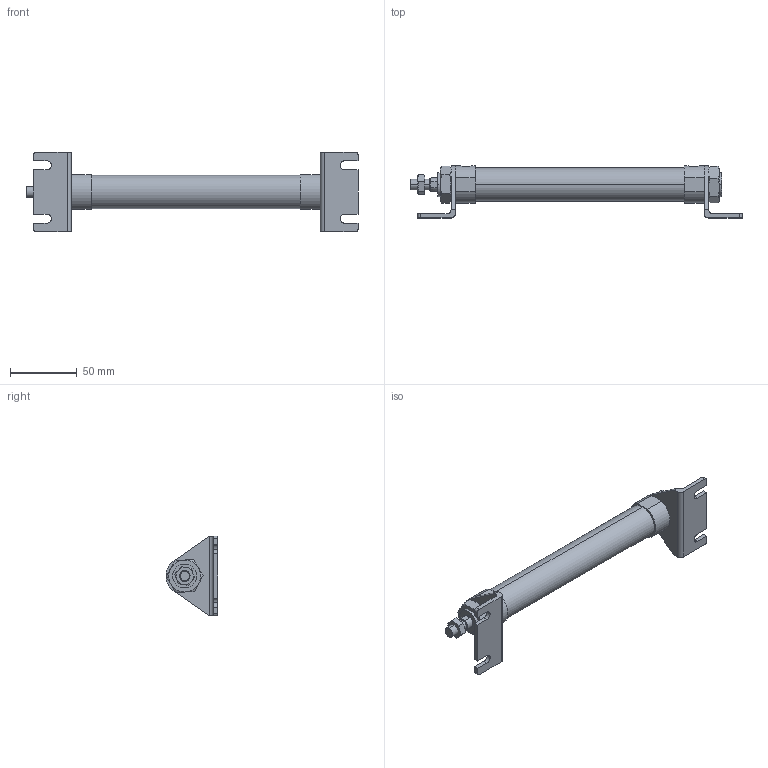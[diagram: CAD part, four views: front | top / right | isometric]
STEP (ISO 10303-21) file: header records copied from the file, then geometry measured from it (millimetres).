
FILE_DESCRIPTION (( 'STEP AP203' ), '1' );
FILE_NAME ('J#2-20-125-L.STEP', '2016-03-10T00:51:15', ( '' ), ( '' ), 'SwSTEP 2.0', 'SolidWorks 2014', '' );
FILE_SCHEMA (( 'CONFIG_CONTROL_DESIGN' ));
Length unit declared in the file: millimetre
Products named in the file (5): J#2-20-125-L; J#2-20-125; J#2-20-L
Assembly tree (6 placements, depth 2):
  J#2-20-125-L
    J#2-20-125
    (unnamed)
    (unnamed)  x2
    J#2-20-L  x2
Bounding box: 249.2 x 39 x 60 mm (x, y, z)
Volume: 123339.6 mm3; surface area: 35101.1 mm2
Topology: 6 solids, 6 shells, 168 faces, 392 edges, 246 vertices
Faces by surface type: plane 74, cylinder 52, torus 36, cone 6
Entity records: 4278 total; most frequent: CARTESIAN_POINT 1025, DIRECTION 577, ORIENTED_EDGE 542, EDGE_CURVE 271, AXIS2_PLACEMENT_3D 234, VERTEX_POINT 170, EDGE_LOOP 135, ADVANCED_FACE 119
